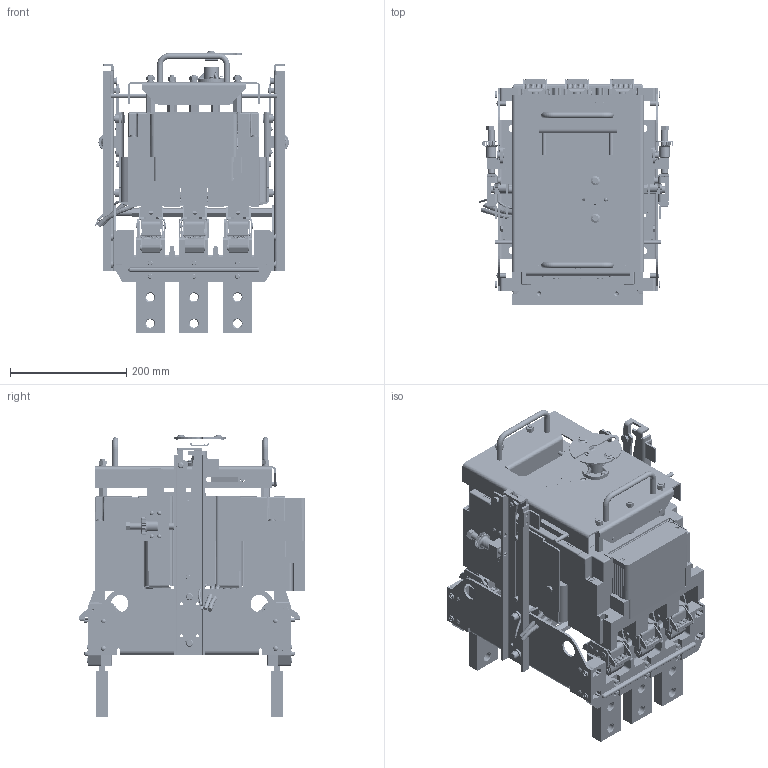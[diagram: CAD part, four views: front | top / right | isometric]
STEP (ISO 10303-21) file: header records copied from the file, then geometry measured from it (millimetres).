
FILE_DESCRIPTION (( 'STEP AP203' ), '1' );
FILE_NAME ('ﾂﾀ 55-41ﾂﾈ ﾐﾄﾏ.STEP', '2014-12-25T12:14:45', ( 'admin' ), ( '' ), 'SwSTEP 2.0', 'SolidWorks 2007', '' );
FILE_SCHEMA (( 'CONFIG_CONTROL_DESIGN' ));
Length unit declared in the file: millimetre
Products named in the file (1): ﾂﾀ 55-41ﾂﾈ ﾐﾄﾏ
Bounding box: 334.38 x 389.91 x 486.2 mm (x, y, z)
Surface area: 1844738.3 mm2 (no closed solid volume)
Topology: 0 solids, 763 shells, 5776 faces, 24775 edges, 19233 vertices
Faces by surface type: plane 2844, cylinder 1892, bspline 481, cone 258, torus 219, sphere 82
Entity records: 491101 total; most frequent: CARTESIAN_POINT 298578, DIRECTION 38151, ORIENTED_EDGE 34584, EDGE_CURVE 24754, VERTEX_POINT 19233, VECTOR 13887, LINE 13887, AXIS2_PLACEMENT_3D 12132
